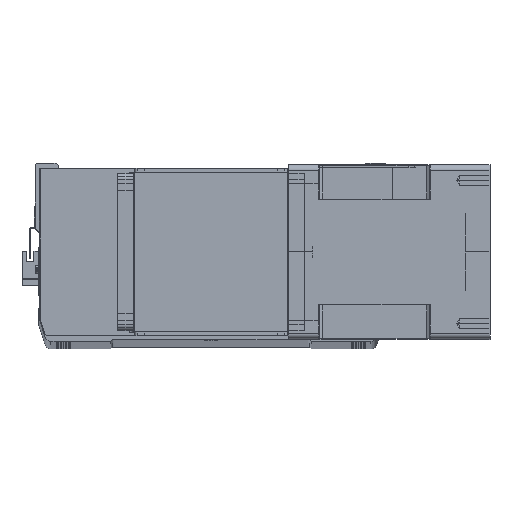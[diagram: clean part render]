
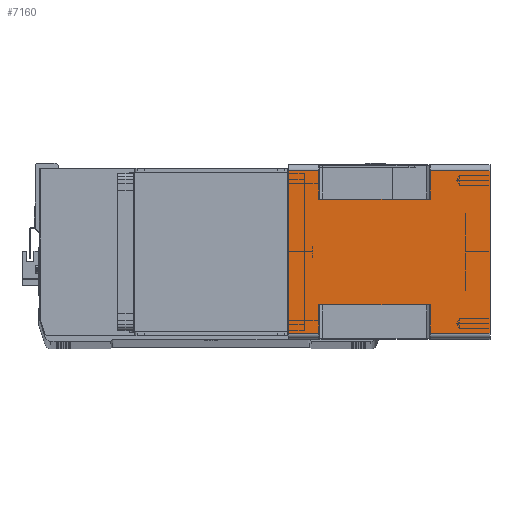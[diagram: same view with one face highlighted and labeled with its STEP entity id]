
A CAD part, top view. The second image highlights one B-rep face of the part: STEP entity #7160.
In plain terms, the highlighted planar face has unit normal (0, 0, 1) as drawn and (1, 0, 0) by its records, which use the part's own axes.
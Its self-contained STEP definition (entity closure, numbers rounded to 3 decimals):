
#411 = DIRECTION ( 'NONE',  ( 0., -1., 0. ) ) ;
#1175 = VECTOR ( 'NONE', #17133, 1000. ) ;
#1424 = VERTEX_POINT ( 'NONE', #18193 ) ;
#1616 = CARTESIAN_POINT ( 'NONE',  ( 71., 66., -164. ) ) ;
#2026 = CARTESIAN_POINT ( 'NONE',  ( 71., -66., -164. ) ) ;
#3692 = CARTESIAN_POINT ( 'NONE',  ( 71., -66., -24.5 ) ) ;
#4412 = LINE ( 'NONE', #14309, #18353 ) ;
#4481 = VERTEX_POINT ( 'NONE', #5546 ) ;
#4624 = EDGE_CURVE ( 'NONE', #15546, #18581, #20478, .T. ) ;
#4825 = ORIENTED_EDGE ( 'NONE', *, *, #7699, .T. ) ;
#5110 = CARTESIAN_POINT ( 'NONE',  ( 71., -66., -115.5 ) ) ;
#5546 = CARTESIAN_POINT ( 'NONE',  ( 71., 43., -24.5 ) ) ;
#5721 = VECTOR ( 'NONE', #20111, 1000. ) ;
#6658 = ORIENTED_EDGE ( 'NONE', *, *, #4624, .F. ) ;
#6819 = DIRECTION ( 'NONE',  ( 0., -1., 0. ) ) ;
#7160 = ADVANCED_FACE ( 'NONE', ( #16737 ), #12192, .T. ) ;
#7161 = EDGE_CURVE ( 'NONE', #1424, #17932, #27140, .T. ) ;
#7228 = VECTOR ( 'NONE', #6819, 1000. ) ;
#7662 = LINE ( 'NONE', #30674, #18711 ) ;
#7699 = EDGE_CURVE ( 'NONE', #35034, #33365, #29752, .T. ) ;
#8494 = CARTESIAN_POINT ( 'NONE',  ( 71., -66., -115.5 ) ) ;
#8555 = ORIENTED_EDGE ( 'NONE', *, *, #20608, .T. ) ;
#8592 = LINE ( 'NONE', #9677, #7228 ) ;
#8955 = VECTOR ( 'NONE', #31630, 1000. ) ;
#9317 = EDGE_CURVE ( 'NONE', #9881, #19339, #7662, .T. ) ;
#9440 = CARTESIAN_POINT ( 'NONE',  ( 71., 66., -164. ) ) ;
#9459 = DIRECTION ( 'NONE',  ( 0., 1., 0. ) ) ;
#9476 = CARTESIAN_POINT ( 'NONE',  ( 71., -43., -24.5 ) ) ;
#9677 = CARTESIAN_POINT ( 'NONE',  ( 71., 43., -115.5 ) ) ;
#9881 = VERTEX_POINT ( 'NONE', #23293 ) ;
#10069 = CARTESIAN_POINT ( 'NONE',  ( 71., -66., -164. ) ) ;
#10553 = ORIENTED_EDGE ( 'NONE', *, *, #18527, .T. ) ;
#11685 = ORIENTED_EDGE ( 'NONE', *, *, #29848, .F. ) ;
#11911 = DIRECTION ( 'NONE',  ( 0., 0., 1. ) ) ;
#12055 = DIRECTION ( 'NONE',  ( 0., 1., 0. ) ) ;
#12192 = PLANE ( 'NONE',  #33047 ) ;
#12445 = ORIENTED_EDGE ( 'NONE', *, *, #20859, .F. ) ;
#12512 = LINE ( 'NONE', #24084, #21970 ) ;
#12812 = VECTOR ( 'NONE', #9459, 1000. ) ;
#13324 = CARTESIAN_POINT ( 'NONE',  ( 71., -43., -115.5 ) ) ;
#13380 = ORIENTED_EDGE ( 'NONE', *, *, #31338, .T. ) ;
#14060 = LINE ( 'NONE', #10069, #22262 ) ;
#14309 = CARTESIAN_POINT ( 'NONE',  ( 71., -66., 0. ) ) ;
#14702 = CARTESIAN_POINT ( 'NONE',  ( 71., -66., -164. ) ) ;
#15546 = VERTEX_POINT ( 'NONE', #2026 ) ;
#16371 = ORIENTED_EDGE ( 'NONE', *, *, #7161, .T. ) ;
#16737 = FACE_OUTER_BOUND ( 'NONE', #33886, .T. ) ;
#16807 = VERTEX_POINT ( 'NONE', #23160 ) ;
#16879 = DIRECTION ( 'NONE',  ( 0., 0., 1. ) ) ;
#17133 = DIRECTION ( 'NONE',  ( 0., 1., 0. ) ) ;
#17221 = LINE ( 'NONE', #33072, #32358 ) ;
#17932 = VERTEX_POINT ( 'NONE', #18517 ) ;
#18193 = CARTESIAN_POINT ( 'NONE',  ( 71., -66., -24.5 ) ) ;
#18353 = VECTOR ( 'NONE', #28706, 1000. ) ;
#18476 = DIRECTION ( 'NONE',  ( 0., 0., 1. ) ) ;
#18517 = CARTESIAN_POINT ( 'NONE',  ( 71., -43., -24.5 ) ) ;
#18527 = EDGE_CURVE ( 'NONE', #4481, #9881, #34882, .T. ) ;
#18581 = VERTEX_POINT ( 'NONE', #5110 ) ;
#18711 = VECTOR ( 'NONE', #16879, 1000. ) ;
#18869 = DIRECTION ( 'NONE',  ( 0., 0., -1. ) ) ;
#19339 = VERTEX_POINT ( 'NONE', #29223 ) ;
#19473 = ORIENTED_EDGE ( 'NONE', *, *, #9317, .T. ) ;
#20111 = DIRECTION ( 'NONE',  ( 0., 0., 1. ) ) ;
#20478 = LINE ( 'NONE', #14702, #5721 ) ;
#20608 = EDGE_CURVE ( 'NONE', #33365, #29007, #8592, .T. ) ;
#20859 = EDGE_CURVE ( 'NONE', #24538, #17932, #17221, .T. ) ;
#21970 = VECTOR ( 'NONE', #18869, 1000. ) ;
#22262 = VECTOR ( 'NONE', #18476, 1000. ) ;
#22332 = CARTESIAN_POINT ( 'NONE',  ( 71., -66., -164. ) ) ;
#23160 = CARTESIAN_POINT ( 'NONE',  ( 71., -66., 0. ) ) ;
#23293 = CARTESIAN_POINT ( 'NONE',  ( 71., 66., -24.5 ) ) ;
#23702 = CARTESIAN_POINT ( 'NONE',  ( 71., 43., -115.5 ) ) ;
#24084 = CARTESIAN_POINT ( 'NONE',  ( 71., 43., -164. ) ) ;
#24227 = ORIENTED_EDGE ( 'NONE', *, *, #32141, .F. ) ;
#24538 = VERTEX_POINT ( 'NONE', #13324 ) ;
#24611 = VECTOR ( 'NONE', #411, 1000. ) ;
#24881 = CARTESIAN_POINT ( 'NONE',  ( 71., 66., -115.5 ) ) ;
#27140 = LINE ( 'NONE', #9476, #8955 ) ;
#27462 = ORIENTED_EDGE ( 'NONE', *, *, #31832, .T. ) ;
#28527 = LINE ( 'NONE', #8494, #24611 ) ;
#28706 = DIRECTION ( 'NONE',  ( 0., 1., 0. ) ) ;
#28710 = DIRECTION ( 'NONE',  ( 0., 0., 1. ) ) ;
#29007 = VERTEX_POINT ( 'NONE', #23702 ) ;
#29130 = EDGE_CURVE ( 'NONE', #1424, #16807, #14060, .T. ) ;
#29223 = CARTESIAN_POINT ( 'NONE',  ( 71., 66., 0. ) ) ;
#29752 = LINE ( 'NONE', #9440, #35400 ) ;
#29848 = EDGE_CURVE ( 'NONE', #16807, #19339, #4412, .T. ) ;
#30214 = ORIENTED_EDGE ( 'NONE', *, *, #29130, .F. ) ;
#30674 = CARTESIAN_POINT ( 'NONE',  ( 71., 66., -164. ) ) ;
#31338 = EDGE_CURVE ( 'NONE', #15546, #35034, #34227, .T. ) ;
#31398 = CARTESIAN_POINT ( 'NONE',  ( 71., -66., -164. ) ) ;
#31630 = DIRECTION ( 'NONE',  ( 0., 1., 0. ) ) ;
#31743 = DIRECTION ( 'NONE',  ( 1., 0., 0. ) ) ;
#31832 = EDGE_CURVE ( 'NONE', #24538, #18581, #28527, .T. ) ;
#32141 = EDGE_CURVE ( 'NONE', #4481, #29007, #12512, .T. ) ;
#32358 = VECTOR ( 'NONE', #11911, 1000. ) ;
#33047 = AXIS2_PLACEMENT_3D ( 'NONE', #31398, #31743, #12055 ) ;
#33072 = CARTESIAN_POINT ( 'NONE',  ( 71., -43., -164. ) ) ;
#33365 = VERTEX_POINT ( 'NONE', #24881 ) ;
#33886 = EDGE_LOOP ( 'NONE', ( #12445, #27462, #6658, #13380, #4825, #8555, #24227, #10553, #19473, #11685, #30214, #16371 ) ) ;
#34227 = LINE ( 'NONE', #22332, #1175 ) ;
#34882 = LINE ( 'NONE', #3692, #12812 ) ;
#35034 = VERTEX_POINT ( 'NONE', #1616 ) ;
#35400 = VECTOR ( 'NONE', #28710, 1000. ) ;
